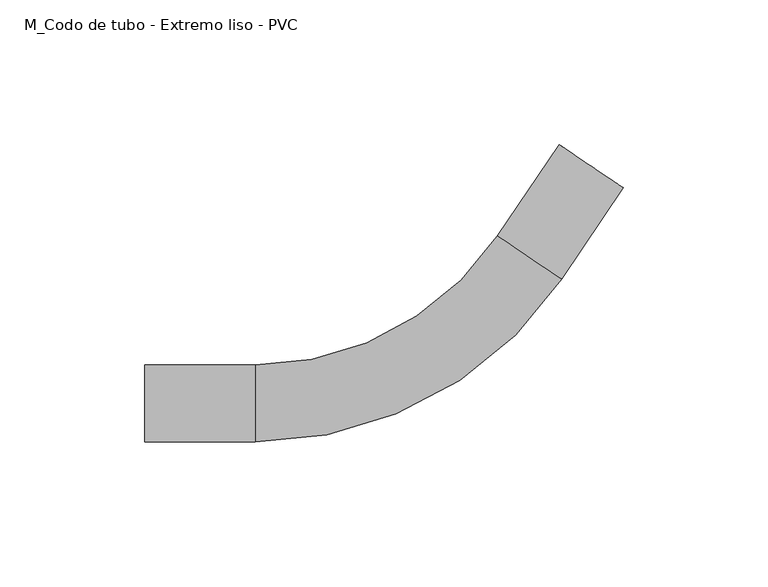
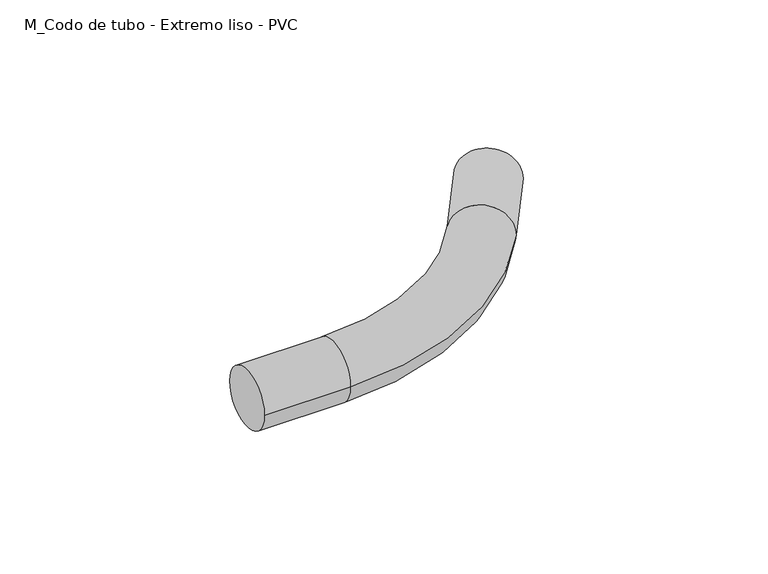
"""IFC4 building model written with IfcOpenShell, lengths in millimetres: cable carrier fitting geometry, M_Codo de tubo - Extremo liso - PVC : CODO ILUMINACION."""

from ifc_helpers import new_model, si_unit, point, frame, origin, place, context, project, spatial, circle_curve, ellipse_curve, trimmed, source, transform, mapped, element, save
from ifc_brep_helpers import plane_surface, cylinder_surface, revolved_surface, advanced_brep


def m_codo_de_tubo_extremo_liso_pvc_835d7cdf(model_context):
    return source(origin(), model_context, "Body", "AdvancedBrep", [
        advanced_brep(
        [(-98.874388, -13.335, 0.0), (-98.874388, 13.335, 0.0), (-60.774388, -13.335, 0.0), (-60.774388, 13.335, 0.0), (22.9293905, 57.8410885, 0.0), (45.0398225, 42.9274138, 0.0), (66.3450722, 74.5137453, 0.0), (44.2346401, 89.42742, 0.0)],
        [
            (0, 1, circle_curve(frame((-98.874388, 0.0, 0.0), z_axis=(-1.0, 0.0, 0.0), x_axis=(0.0, 1.0, 0.0)), 13.335)),
            (1, 0, circle_curve(frame((-98.874388, 0.0, 0.0), z_axis=(-1.0, 0.0, 0.0), x_axis=(0.0, 1.0, 0.0)), 13.335)),
            (0, 2),
            (2, 3, circle_curve(frame((-60.774388, 0.0, 0.0), z_axis=(-1.0, 0.0, 0.0), x_axis=(0.0, 1.0, 0.0)), 13.335)),
            (3, 1),
            (3, 2, circle_curve(frame((-60.774388, 0.0, 0.0), z_axis=(-1.0, 0.0, 0.0), x_axis=(0.0, 1.0, 0.0)), 13.335)),
            (4, 3, circle_curve(frame((-60.774388, 114.3, 0.0), z_axis=(0.0, 0.0, -1.0), x_axis=(0.0, -1.0, 0.0)), 100.965)),
            (2, 5, circle_curve(frame((-60.774388, 114.3, 0.0), z_axis=(0.0, 0.0, 1.0), x_axis=(0.0, -1.0, 0.0)), 127.635)),
            (5, 4, circle_curve(frame((33.9846065, 50.3842511, 0.0), z_axis=(-0.5591929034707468, -0.8290375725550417, 0.0), x_axis=(-0.8290375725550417, 0.5591929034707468, 0.0)), 13.335)),
            (4, 5, circle_curve(frame((33.9846065, 50.3842511, 0.0), z_axis=(-0.5591929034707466, -0.8290375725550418, 0.0), x_axis=(-0.8290375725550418, 0.5591929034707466, 0.0)), 13.335)),
            (6, 7, circle_curve(frame((55.2898561, 81.9705826, 0.0), z_axis=(0.5591929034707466, 0.829037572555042, 0.0), x_axis=(-0.829037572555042, 0.5591929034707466, 0.0)), 13.335)),
            (7, 6, circle_curve(frame((55.2898561, 81.9705826, 0.0), z_axis=(0.5591929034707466, 0.829037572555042, 0.0), x_axis=(-0.829037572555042, 0.5591929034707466, 0.0)), 13.335)),
            (5, 6),
            (7, 4),
        ],
        [
            plane_surface(frame((-98.874388, 0.0, 0.0), z_axis=(-1.0, 0.0, 0.0), x_axis=(0.0, 0.0, 1.0))),
            cylinder_surface(frame((-98.874388, 0.0, 0.0), z_axis=(-1.0, 0.0, 0.0), x_axis=(0.0, 1.0, 0.0)), 13.335),
            revolved_surface(trimmed(ellipse_curve(frame((-60.774388, 0.0, 0.0), z_axis=(-1.0, 0.0, 0.0), x_axis=(0.0, 1.0, 0.0)), 13.335, 13.335), [point((-60.774388, -13.335, 0.0))], [point((-60.774388, 13.335, 0.0))], True, "CARTESIAN"), (-60.774388, 114.3, 0.0), (0.0, 0.0, 1.0)),
            revolved_surface(trimmed(ellipse_curve(frame((-60.774388, 0.0, 0.0), z_axis=(-1.0, 0.0, 0.0), x_axis=(0.0, 1.0, 0.0)), 13.335, 13.335), [point((-60.774388, 13.335, 0.0))], [point((-60.774388, -13.335, 0.0))], True, "CARTESIAN"), (-60.774388, 114.3, 0.0), (0.0, 0.0, 1.0)),
            plane_surface(frame((55.2898561, 81.9705826, 0.0), z_axis=(0.5591929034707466, 0.829037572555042, 0.0), x_axis=(0.0, 0.0, 1.0))),
            cylinder_surface(frame((33.9846065, 50.3842511, 0.0), z_axis=(-0.5591929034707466, -0.829037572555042, 0.0), x_axis=(-0.829037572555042, 0.5591929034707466, 0.0)), 13.335),
        ],
        [
            (0, [[1, 2]]),
            (1, [[-1, 3, 4, 5]]),
            (1, [[-2, -5, 6, -3]]),
            (2, [[7, -4, 8, 9]]),
            (3, [[-8, -6, -7, 10]]),
            (4, [[11, 12]]),
            (5, [[-9, 13, -12, 14]]),
            (5, [[-10, -14, -11, -13]]),
        ],
    ),
    ])


if __name__ == "__main__":
    model = new_model("IFC4")
    model_context = context("Model", 3, world=origin())
    ifc_project = project(units=[si_unit("LENGTHUNIT", "METRE", prefix="MILLI")], contexts=[model_context])
    site = spatial("IfcSite", under=ifc_project)
    building = spatial("IfcBuilding", under=site)
    placement = place(None, origin())
    m_codo_de_tubo_extremo_liso_pvc_shape = m_codo_de_tubo_extremo_liso_pvc_835d7cdf(model_context)
    element("IfcCableCarrierFitting", 1, ObjectType="M_Codo de tubo - Extremo liso - PVC : CODO ILUMINACION", at=placement, inside=building, context=model_context, shape_type="MappedRepresentation", body=[
        mapped(m_codo_de_tubo_extremo_liso_pvc_shape, transform((0.0, 0.0, 0.0), x_axis=(1.0, 0.0, 0.0), y_axis=(0.0, 1.0, 0.0), z_axis=(0.0, 0.0, 1.0))),
    ])
    save(model, "model.ifc")
